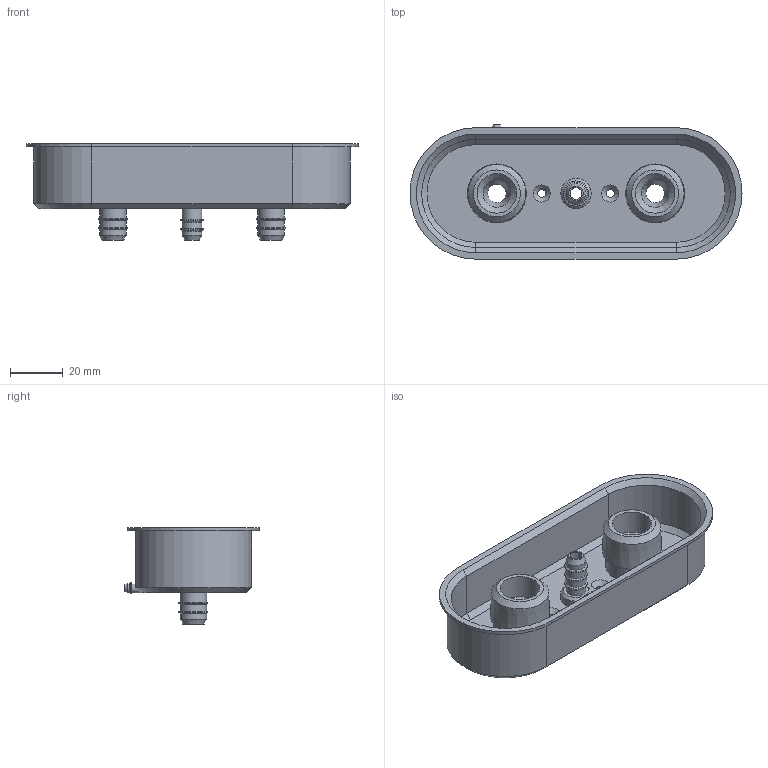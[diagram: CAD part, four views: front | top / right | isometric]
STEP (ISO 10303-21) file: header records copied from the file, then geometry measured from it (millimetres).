
FILE_DESCRIPTION(/* description */ (''),/* implementation_level */ '2;1');
FILE_NAME(/* name */ '/Users/valerian/Desktop/Air Plug.step',/* time_stamp */ '2020-10-24T17:42:42+02:00',/* author */ (''),/* organization */ (''),/* preprocessor_version */ 'ST-DEVELOPER v18.1',/* originating_system */ 'Autodesk Translation Framework v9.3.0.1241',/* authorisation */ '');
FILE_SCHEMA (('AUTOMOTIVE_DESIGN { 1 0 10303 214 3 1 1 }'));
Length unit declared in the file: millimetre
Products named in the file (1): Air Plug
Bounding box: 125.8 x 50.9 x 36.75 mm (x, y, z)
Volume: 37721.8 mm3; surface area: 30543.3 mm2
Topology: 1 solids, 1 shells, 111 faces, 223 edges, 135 vertices
Faces by surface type: cylinder 42, plane 37, cone 32
Full cylindrical faces by diameter (mm): 1.5 x1, 3 x2, 3.5 x2, 4.1 x1, 4.5 x1, 7 x2, 7.5 x7, 8.5 x5, 10 x6, 11 x4, 11.5 x1, 15 x2, 20 x2
Entity records: 2978 total; most frequent: DIRECTION 560, CARTESIAN_POINT 504, ORIENTED_EDGE 446, AXIS2_PLACEMENT_3D 227, EDGE_CURVE 223, EDGE_LOOP 144, VERTEX_POINT 135, CIRCLE 112
